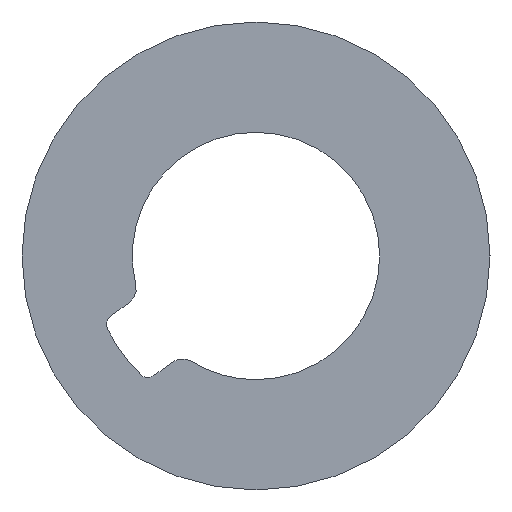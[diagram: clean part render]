
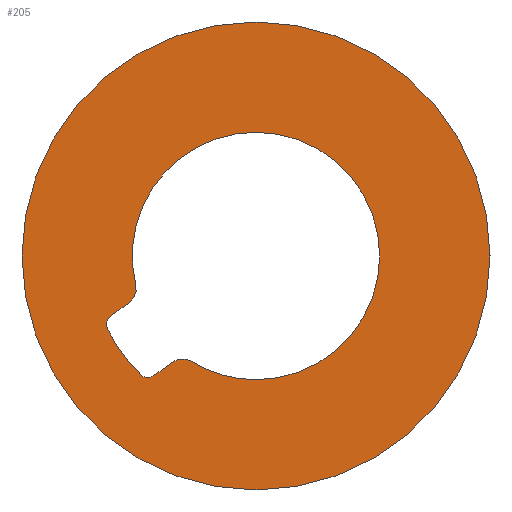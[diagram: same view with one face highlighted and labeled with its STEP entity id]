
A CAD part, left-side view. The second image highlights one B-rep face of the part: STEP entity #205.
In plain terms, the highlighted planar face has unit normal (-1, 0, 0).
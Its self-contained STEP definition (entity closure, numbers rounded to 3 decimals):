
#5 = ORIENTED_EDGE ( 'NONE', *, *, #288, .F. ) ;
#6 = ORIENTED_EDGE ( 'NONE', *, *, #289, .T. ) ;
#7 = ORIENTED_EDGE ( 'NONE', *, *, #268, .F. ) ;
#8 = ORIENTED_EDGE ( 'NONE', *, *, #272, .T. ) ;
#9 = ORIENTED_EDGE ( 'NONE', *, *, #275, .T. ) ;
#10 = ORIENTED_EDGE ( 'NONE', *, *, #261, .T. ) ;
#11 = ORIENTED_EDGE ( 'NONE', *, *, #279, .T. ) ;
#12 = ORIENTED_EDGE ( 'NONE', *, *, #291, .T. ) ;
#13 = ORIENTED_EDGE ( 'NONE', *, *, #290, .T. ) ;
#19 = ORIENTED_EDGE ( 'NONE', *, *, #262, .T. ) ;
#20 = ORIENTED_EDGE ( 'NONE', *, *, #293, .T. ) ;
#21 = ORIENTED_EDGE ( 'NONE', *, *, #292, .T. ) ;
#24 = ORIENTED_EDGE ( 'NONE', *, *, #294, .T. ) ;
#37 = CIRCLE ( 'NONE', #222, 0.3 ) ;
#39 = CIRCLE ( 'NONE', #223, 4.95 ) ;
#40 = CIRCLE ( 'NONE', #227, 0.3 ) ;
#45 = VECTOR ( 'NONE', #480, 1000. ) ;
#46 = CIRCLE ( 'NONE', #231, 0.5 ) ;
#47 = LINE ( 'NONE', #474, #45 ) ;
#49 = VECTOR ( 'NONE', #525, 1000. ) ;
#50 = CIRCLE ( 'NONE', #224, 7. ) ;
#51 = LINE ( 'NONE', #518, #49 ) ;
#68 = CIRCLE ( 'NONE', #233, 3.7 ) ;
#73 = CIRCLE ( 'NONE', #235, 3.7 ) ;
#79 = CIRCLE ( 'NONE', #237, 3.7 ) ;
#87 = CIRCLE ( 'NONE', #239, 7. ) ;
#99 = CIRCLE ( 'NONE', #242, 0.3 ) ;
#101 = CIRCLE ( 'NONE', #243, 0.5 ) ;
#133 = FACE_BOUND ( 'NONE', #146, .T. ) ;
#134 = FACE_OUTER_BOUND ( 'NONE', #147, .T. ) ;
#146 = EDGE_LOOP ( 'NONE', ( #6, #10, #9, #8, #11, #13, #12, #21, #19, #20, #24 ) ) ;
#147 = EDGE_LOOP ( 'NONE', ( #5, #7 ) ) ;
#205 = ADVANCED_FACE ( 'NONE', ( #134, #133 ), #422, .F. ) ;
#222 = AXIS2_PLACEMENT_3D ( 'NONE', #523, #451, #452 ) ;
#223 = AXIS2_PLACEMENT_3D ( 'NONE', #515, #516, #521 ) ;
#224 = AXIS2_PLACEMENT_3D ( 'NONE', #517, #507, #519 ) ;
#227 = AXIS2_PLACEMENT_3D ( 'NONE', #485, #489, #513 ) ;
#231 = AXIS2_PLACEMENT_3D ( 'NONE', #520, #467, #475 ) ;
#233 = AXIS2_PLACEMENT_3D ( 'NONE', #320, #318, #315 ) ;
#235 = AXIS2_PLACEMENT_3D ( 'NONE', #335, #333, #331 ) ;
#237 = AXIS2_PLACEMENT_3D ( 'NONE', #344, #343, #342 ) ;
#239 = AXIS2_PLACEMENT_3D ( 'NONE', #355, #354, #353 ) ;
#242 = AXIS2_PLACEMENT_3D ( 'NONE', #374, #373, #371 ) ;
#243 = AXIS2_PLACEMENT_3D ( 'NONE', #380, #379, #377 ) ;
#254 = AXIS2_PLACEMENT_3D ( 'NONE', #421, #420, #419 ) ;
#261 = EDGE_CURVE ( 'NONE', #445, #449, #101, .T. ) ;
#262 = EDGE_CURVE ( 'NONE', #444, #375, #99, .T. ) ;
#268 = EDGE_CURVE ( 'NONE', #326, #448, #87, .T. ) ;
#272 = EDGE_CURVE ( 'NONE', #442, #450, #79, .T. ) ;
#275 = EDGE_CURVE ( 'NONE', #449, #442, #73, .T. ) ;
#279 = EDGE_CURVE ( 'NONE', #450, #352, #68, .T. ) ;
#288 = EDGE_CURVE ( 'NONE', #448, #326, #50, .T. ) ;
#289 = EDGE_CURVE ( 'NONE', #446, #445, #51, .T. ) ;
#290 = EDGE_CURVE ( 'NONE', #352, #366, #46, .T. ) ;
#291 = EDGE_CURVE ( 'NONE', #366, #443, #47, .T. ) ;
#292 = EDGE_CURVE ( 'NONE', #443, #444, #40, .T. ) ;
#293 = EDGE_CURVE ( 'NONE', #375, #447, #39, .T. ) ;
#294 = EDGE_CURVE ( 'NONE', #447, #446, #37, .T. ) ;
#315 = DIRECTION ( 'NONE',  ( 0., 0., -1. ) ) ;
#318 = DIRECTION ( 'NONE',  ( 1., 0., 0. ) ) ;
#320 = CARTESIAN_POINT ( 'NONE',  ( -435.5, 0., 0. ) ) ;
#326 = VERTEX_POINT ( 'NONE', #505 ) ;
#331 = DIRECTION ( 'NONE',  ( 0., 0., -1. ) ) ;
#333 = DIRECTION ( 'NONE',  ( 1., 0., 0. ) ) ;
#335 = CARTESIAN_POINT ( 'NONE',  ( -435.5, 0., 0. ) ) ;
#342 = DIRECTION ( 'NONE',  ( 0., 0., -1. ) ) ;
#343 = DIRECTION ( 'NONE',  ( 1., 0., 0. ) ) ;
#344 = CARTESIAN_POINT ( 'NONE',  ( -435.5, 0., 0. ) ) ;
#352 = VERTEX_POINT ( 'NONE', #502 ) ;
#353 = DIRECTION ( 'NONE',  ( 0., 0., -1. ) ) ;
#354 = DIRECTION ( 'NONE',  ( 1., 0., 0. ) ) ;
#355 = CARTESIAN_POINT ( 'NONE',  ( -435.5, 0., 0. ) ) ;
#366 = VERTEX_POINT ( 'NONE', #500 ) ;
#371 = DIRECTION ( 'NONE',  ( 0., 0., 1. ) ) ;
#373 = DIRECTION ( 'NONE',  ( 1., 0., 0. ) ) ;
#374 = CARTESIAN_POINT ( 'NONE',  ( -435.5, 3.236, -3.34 ) ) ;
#375 = VERTEX_POINT ( 'NONE', #497 ) ;
#377 = DIRECTION ( 'NONE',  ( 0., 0., 1. ) ) ;
#379 = DIRECTION ( 'NONE',  ( -1., 0., 0. ) ) ;
#380 = CARTESIAN_POINT ( 'NONE',  ( -435.5, 4.082, -0.988 ) ) ;
#419 = DIRECTION ( 'NONE',  ( 0., 0., -1. ) ) ;
#420 = DIRECTION ( 'NONE',  ( 1., 0., 0. ) ) ;
#421 = CARTESIAN_POINT ( 'NONE',  ( -435.5, 0., 0. ) ) ;
#422 = PLANE ( 'NONE',  #254 ) ;
#442 = VERTEX_POINT ( 'NONE', #490 ) ;
#443 = VERTEX_POINT ( 'NONE', #488 ) ;
#444 = VERTEX_POINT ( 'NONE', #487 ) ;
#445 = VERTEX_POINT ( 'NONE', #486 ) ;
#446 = VERTEX_POINT ( 'NONE', #484 ) ;
#447 = VERTEX_POINT ( 'NONE', #483 ) ;
#448 = VERTEX_POINT ( 'NONE', #482 ) ;
#449 = VERTEX_POINT ( 'NONE', #481 ) ;
#450 = VERTEX_POINT ( 'NONE', #479 ) ;
#451 = DIRECTION ( 'NONE',  ( 1., 0., 0. ) ) ;
#452 = DIRECTION ( 'NONE',  ( 0., 0., -1. ) ) ;
#467 = DIRECTION ( 'NONE',  ( -1., 0., 0. ) ) ;
#474 = CARTESIAN_POINT ( 'NONE',  ( -435.5, 3.059, -3.582 ) ) ;
#475 = DIRECTION ( 'NONE',  ( 0., 0., -1. ) ) ;
#479 = CARTESIAN_POINT ( 'NONE',  ( -435.5, 0., -3.7 ) ) ;
#480 = DIRECTION ( 'NONE',  ( 0., 0.809, -0.588 ) ) ;
#481 = CARTESIAN_POINT ( 'NONE',  ( -435.5, 3.596, -0.87 ) ) ;
#482 = CARTESIAN_POINT ( 'NONE',  ( -435.5, 0., 7. ) ) ;
#483 = CARTESIAN_POINT ( 'NONE',  ( -435.5, 4.445, -2.177 ) ) ;
#484 = CARTESIAN_POINT ( 'NONE',  ( -435.5, 4.352, -1.803 ) ) ;
#485 = CARTESIAN_POINT ( 'NONE',  ( -435.5, 3.236, -3.34 ) ) ;
#486 = CARTESIAN_POINT ( 'NONE',  ( -435.5, 3.788, -1.393 ) ) ;
#487 = CARTESIAN_POINT ( 'NONE',  ( -435.5, 3.236, -3.64 ) ) ;
#488 = CARTESIAN_POINT ( 'NONE',  ( -435.5, 3.059, -3.582 ) ) ;
#489 = DIRECTION ( 'NONE',  ( 1., 0., 0. ) ) ;
#490 = CARTESIAN_POINT ( 'NONE',  ( -435.5, 0., 3.7 ) ) ;
#497 = CARTESIAN_POINT ( 'NONE',  ( -435.5, 3.444, -3.555 ) ) ;
#500 = CARTESIAN_POINT ( 'NONE',  ( -435.5, 2.495, -3.172 ) ) ;
#502 = CARTESIAN_POINT ( 'NONE',  ( -435.5, 1.939, -3.151 ) ) ;
#505 = CARTESIAN_POINT ( 'NONE',  ( -435.5, 0., -7. ) ) ;
#507 = DIRECTION ( 'NONE',  ( 1., 0., 0. ) ) ;
#513 = DIRECTION ( 'NONE',  ( 0., 0., 1. ) ) ;
#515 = CARTESIAN_POINT ( 'NONE',  ( -435.5, 0., 0. ) ) ;
#516 = DIRECTION ( 'NONE',  ( 1., 0., 0. ) ) ;
#517 = CARTESIAN_POINT ( 'NONE',  ( -435.5, 0., 0. ) ) ;
#518 = CARTESIAN_POINT ( 'NONE',  ( -435.5, 3.788, -1.393 ) ) ;
#519 = DIRECTION ( 'NONE',  ( 0., 0., -1. ) ) ;
#520 = CARTESIAN_POINT ( 'NONE',  ( -435.5, 2.201, -3.577 ) ) ;
#521 = DIRECTION ( 'NONE',  ( 0., 0., 1. ) ) ;
#523 = CARTESIAN_POINT ( 'NONE',  ( -435.5, 4.176, -2.045 ) ) ;
#525 = DIRECTION ( 'NONE',  ( 0., -0.809, 0.588 ) ) ;
